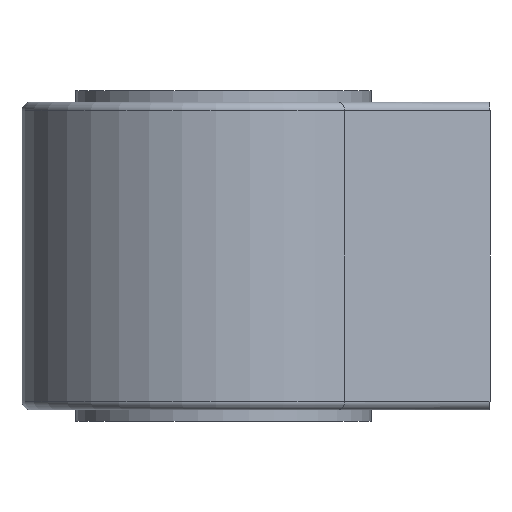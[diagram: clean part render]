
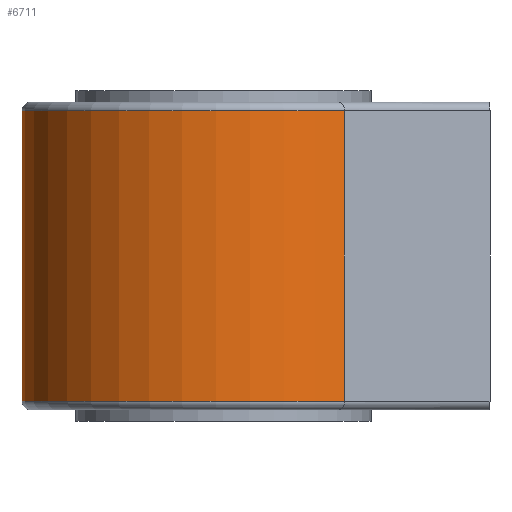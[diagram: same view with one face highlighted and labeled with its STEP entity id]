
A CAD part, front view. The second image highlights one B-rep face of the part: STEP entity #6711.
In plain terms, the highlighted cylindrical face has radius 22.7 mm (diameter 45.4 mm), a partial arc.
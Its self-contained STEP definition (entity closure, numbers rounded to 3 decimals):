
#26 = DIRECTION ( 'NONE',  ( 0., 0., -1. ) ) ;
#33 = DIRECTION ( 'NONE',  ( 0., 0., -1. ) ) ;
#291 = EDGE_CURVE ( 'NONE', #3774, #3053, #5664, .T. ) ;
#379 = EDGE_CURVE ( 'NONE', #6609, #7145, #1920, .T. ) ;
#725 = EDGE_CURVE ( 'NONE', #3774, #7145, #1742, .T. ) ;
#736 = AXIS2_PLACEMENT_3D ( 'NONE', #2350, #6254, #3372 ) ;
#1022 = ORIENTED_EDGE ( 'NONE', *, *, #379, .T. ) ;
#1742 = LINE ( 'NONE', #2943, #2044 ) ;
#1822 = CARTESIAN_POINT ( 'NONE',  ( 0., 0., -16.34 ) ) ;
#1885 = EDGE_CURVE ( 'NONE', #3053, #6609, #4973, .T. ) ;
#1920 = CIRCLE ( 'NONE', #4580, 22.7 ) ;
#2044 = VECTOR ( 'NONE', #26, 1000. ) ;
#2204 = CYLINDRICAL_SURFACE ( 'NONE', #736, 22.7 ) ;
#2350 = CARTESIAN_POINT ( 'NONE',  ( 0., 0., 17.34 ) ) ;
#2569 = CARTESIAN_POINT ( 'NONE',  ( 13.531, -18.226, 16.34 ) ) ;
#2943 = CARTESIAN_POINT ( 'NONE',  ( 13.531, -18.226, 17.34 ) ) ;
#3053 = VERTEX_POINT ( 'NONE', #5118 ) ;
#3229 = ORIENTED_EDGE ( 'NONE', *, *, #725, .F. ) ;
#3372 = DIRECTION ( 'NONE',  ( -1., 0., 0. ) ) ;
#3468 = CARTESIAN_POINT ( 'NONE',  ( 13.531, -18.226, -16.34 ) ) ;
#3475 = ORIENTED_EDGE ( 'NONE', *, *, #1885, .T. ) ;
#3722 = CARTESIAN_POINT ( 'NONE',  ( -22.7, 0., 17.34 ) ) ;
#3726 = ORIENTED_EDGE ( 'NONE', *, *, #291, .T. ) ;
#3774 = VERTEX_POINT ( 'NONE', #2569 ) ;
#4580 = AXIS2_PLACEMENT_3D ( 'NONE', #1822, #5145, #4584 ) ;
#4584 = DIRECTION ( 'NONE',  ( -1., 0., 0. ) ) ;
#4625 = VECTOR ( 'NONE', #6022, 1000. ) ;
#4973 = LINE ( 'NONE', #3722, #4625 ) ;
#5118 = CARTESIAN_POINT ( 'NONE',  ( -22.7, 0., 16.34 ) ) ;
#5145 = DIRECTION ( 'NONE',  ( 0., 0., 1. ) ) ;
#5217 = CARTESIAN_POINT ( 'NONE',  ( 0., 0., 16.34 ) ) ;
#5257 = DIRECTION ( 'NONE',  ( -1., 0., 0. ) ) ;
#5579 = CARTESIAN_POINT ( 'NONE',  ( -22.7, 0., -16.34 ) ) ;
#5664 = CIRCLE ( 'NONE', #6389, 22.7 ) ;
#5726 = FACE_OUTER_BOUND ( 'NONE', #5998, .T. ) ;
#5998 = EDGE_LOOP ( 'NONE', ( #3726, #3475, #1022, #3229 ) ) ;
#6022 = DIRECTION ( 'NONE',  ( 0., 0., -1. ) ) ;
#6254 = DIRECTION ( 'NONE',  ( 0., 0., -1. ) ) ;
#6389 = AXIS2_PLACEMENT_3D ( 'NONE', #5217, #33, #5257 ) ;
#6609 = VERTEX_POINT ( 'NONE', #5579 ) ;
#6711 = ADVANCED_FACE ( 'NONE', ( #5726 ), #2204, .T. ) ;
#7145 = VERTEX_POINT ( 'NONE', #3468 ) ;
